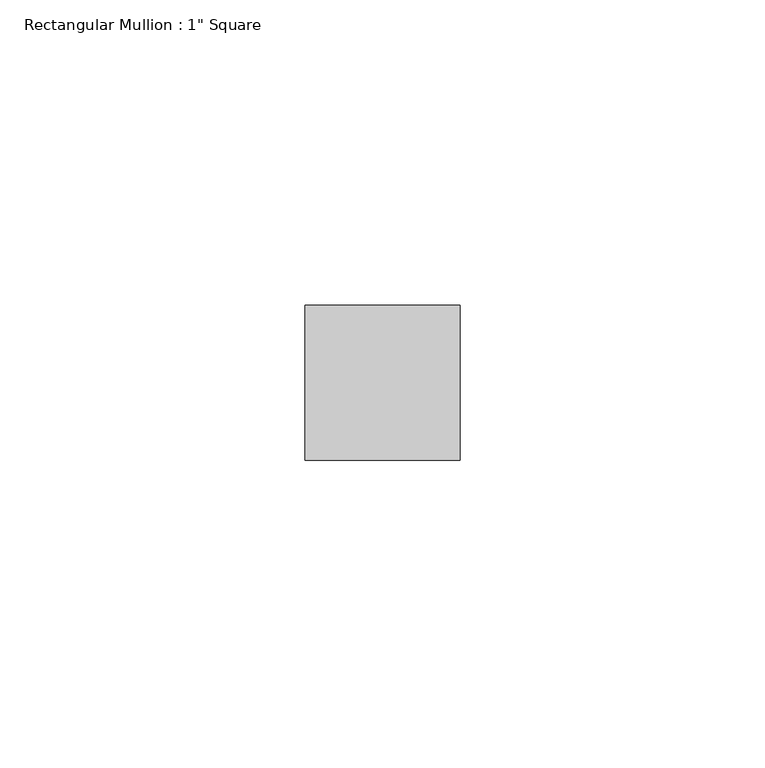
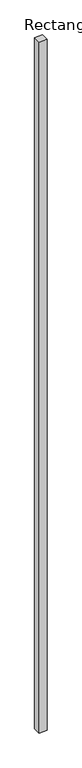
"""IFC4 building model written with IfcOpenShell, lengths in millimetres: member geometry."""

import ifcopenshell
import ifcopenshell.guid

model = None  # the IFC model being written
_history = None  # IfcOwnerHistory: only IFC2X3 demands one
_inside = {}  # id of a spatial element -> (the spatial element, [elements in it])
_under = {}  # id of a project, library or spatial element -> (it, [spatial elements below it])
_declared = {}  # id of a project -> (the project, [libraries it declares])
_typed = {}  # id of a type object -> (the type object, [elements of that type])
_made_of = {}  # id of a material, layer set ... -> (it, [elements and type objects made of it])


def new_model(schema):
    """Start an empty IFC model of exactly this schema.

    Asked for "IFC4X3", IfcOpenShell would pick the latest addendum, in which some entities
    have other attributes; the version numbers below select the first issue.
    IFC2X3 requires an IfcOwnerHistory on every rooted entity: one is made here for all.
    """
    global model, _history
    if schema == "IFC4X3":
        model = ifcopenshell.file(schema_version=(4, 3, 0, 0))
    else:
        model = ifcopenshell.file(schema=schema)
    _inside.clear()
    _under.clear()
    _declared.clear()
    _typed.clear()
    _made_of.clear()
    _history = None
    if model.schema == "IFC2X3":
        org = make("IfcOrganization", Name="unknown")
        user = make(
            "IfcPersonAndOrganization",
            ThePerson=make("IfcPerson", FamilyName="unknown"),
            TheOrganization=org,
        )
        app = make(
            "IfcApplication",
            ApplicationDeveloper=org,
            Version="unknown",
            ApplicationFullName="unknown",
            ApplicationIdentifier="unknown",
        )
        _history = make(
            "IfcOwnerHistory",
            OwningUser=user,
            OwningApplication=app,
            ChangeAction="ADDED",
            CreationDate=0,
        )
    return model


def make(cls, **values):
    """One entity of the class cls with the attributes given. An attribute that is None is left unset."""
    return model.create_entity(
        cls, **{name: value for name, value in values.items() if value is not None}
    )


def rooted(cls, **values):
    """An entity with a GlobalId (a new one), such as an element, a storey or a relation."""
    return make(cls, GlobalId=ifcopenshell.guid.new(), OwnerHistory=_history, **values)


def si_unit(unit_type, name, prefix=None):
    """IfcSIUnit, for example si_unit("LENGTHUNIT", "METRE", prefix="MILLI")."""
    return make("IfcSIUnit", UnitType=unit_type, Prefix=prefix, Name=name)


def assignment(units):
    """IfcUnitAssignment: the units of a project."""
    return None if units is None else make("IfcUnitAssignment", Units=units)


def point(xyz):
    """IfcCartesianPoint."""
    return None if xyz is None else make("IfcCartesianPoint", Coordinates=xyz)


def direction(xyz):
    """IfcDirection."""
    return None if xyz is None else make("IfcDirection", DirectionRatios=xyz)


def frame(location, z_axis=None, x_axis=None):
    """IfcAxis2Placement3D, a coordinate frame: its origin and axes. An axis left out is left unset."""
    return make(
        "IfcAxis2Placement3D",
        Location=point(location),
        Axis=direction(z_axis),
        RefDirection=direction(x_axis),
    )


def origin():
    """The frame at (0, 0, 0) with its axes left unset."""
    return frame((0.0, 0.0, 0.0))


def place(relative_to, where):
    """IfcLocalPlacement: puts the frame where relative to a parent placement (None: the world)."""
    return make(
        "IfcLocalPlacement", PlacementRelTo=relative_to, RelativePlacement=where
    )


def context(
    kind, dimensions, precision=None, world=None, true_north=None, identifier=None
):
    """IfcGeometricRepresentationContext, for example the 3D "Model" context."""
    return make(
        "IfcGeometricRepresentationContext",
        ContextIdentifier=identifier,
        ContextType=kind,
        CoordinateSpaceDimension=dimensions,
        Precision=precision,
        WorldCoordinateSystem=world,
        TrueNorth=true_north,
    )


def project(units=None, contexts=None):
    """IfcProject with its units and contexts."""
    return rooted(
        "IfcProject",
        Name="project",
        RepresentationContexts=contexts,
        UnitsInContext=assignment(units),
    )


def spatial(cls, under=None, at=None, **own):
    """A site, building, storey or space (cls), placed at a placement, below another one or the project."""
    s = rooted(cls, ObjectPlacement=at, **own)
    if under is not None:
        _under.setdefault(under.id(), (under, []))[1].append(s)
    return s


def polyline(points):
    """IfcPolyline through the points."""
    return make("IfcPolyline", Points=[point(p) for p in points])


def outline(outer, holes=None, kind="AREA"):
    """IfcArbitraryClosedProfileDef: a profile drawn as a closed curve; with holes, ...WithVoids."""
    if holes is None:
        return make("IfcArbitraryClosedProfileDef", ProfileType=kind, OuterCurve=outer)
    return make(
        "IfcArbitraryProfileDefWithVoids",
        ProfileType=kind,
        OuterCurve=outer,
        InnerCurves=holes,
    )


def extrude(swept, where, along, depth):
    """IfcExtrudedAreaSolid: the profile swept, set in the frame where, extruded along a direction by depth."""
    return make(
        "IfcExtrudedAreaSolid",
        SweptArea=swept,
        Position=where,
        ExtrudedDirection=direction(along),
        Depth=depth,
    )


def shape(context_of_items, identifier, shape_type, items):
    """IfcShapeRepresentation: the items that make up one representation, for example the "Body"."""
    return make(
        "IfcShapeRepresentation",
        ContextOfItems=context_of_items,
        RepresentationIdentifier=identifier,
        RepresentationType=shape_type,
        Items=items,
    )


def source(mapping_origin, context_of_items, identifier, shape_type, items):
    """IfcRepresentationMap: a shape defined once, which mapped items show again and again."""
    return make(
        "IfcRepresentationMap",
        MappingOrigin=mapping_origin,
        MappedRepresentation=shape(context_of_items, identifier, shape_type, items),
    )


def transform(
    local_origin,
    x_axis=None,
    y_axis=None,
    z_axis=None,
    scale=None,
    scale2=None,
    scale3=None,
    uniform=True,
):
    """IfcCartesianTransformationOperator3D, or its non-uniform kind. x_axis, y_axis, z_axis: its Axis1, 2, 3."""
    if uniform:
        return make(
            "IfcCartesianTransformationOperator3D",
            Axis1=direction(x_axis),
            Axis2=direction(y_axis),
            LocalOrigin=point(local_origin),
            Scale=scale,
            Axis3=direction(z_axis),
        )
    return make(
        "IfcCartesianTransformationOperator3DnonUniform",
        Axis1=direction(x_axis),
        Axis2=direction(y_axis),
        LocalOrigin=point(local_origin),
        Scale=scale,
        Axis3=direction(z_axis),
        Scale2=scale2,
        Scale3=scale3,
    )


def mapped(mapping_source, mapping_target):
    """IfcMappedItem: shows the shape of a source again, moved by a transform."""
    return make(
        "IfcMappedItem", MappingSource=mapping_source, MappingTarget=mapping_target
    )


def made_of(thing, what):
    """Note that an element or type object is made of a material, layer set ...; save() writes the relation."""
    if what is not None:
        _made_of.setdefault(what.id(), (what, []))[1].append(thing)
    return thing


def element(
    cls,
    number,
    at=None,
    inside=None,
    cuts=None,
    type_object=None,
    material=None,
    context=None,
    identifier="Body",
    shape_type=None,
    held_by="IfcProductDefinitionShape",
    body=None,
    shapes=None,
    **own,
):
    """One element of the class cls, such as IfcWall. Its Tag is "e" and its number.

    at: its placement. inside: the storey or other place that contains it. cuts: it is an
    opening in that element (IfcRelVoidsElement). A single representation is given by context,
    identifier, shape_type and body (its items); several are given by shapes. held_by: the class
    of the entity that holds the representations. save() writes the other relations.
    """
    e = rooted(cls, Tag="e%d" % number, ObjectPlacement=at, **own)
    if body is not None:
        shapes = [shape(context, identifier, shape_type, body)]
    if shapes is not None:
        e.Representation = make(held_by, Representations=shapes)
    if inside is not None:
        _inside.setdefault(inside.id(), (inside, []))[1].append(e)
    if cuts is not None:
        rooted(
            "IfcRelVoidsElement", RelatingBuildingElement=cuts, RelatedOpeningElement=e
        )
    if type_object is not None:
        _typed.setdefault(type_object.id(), (type_object, []))[1].append(e)
    return made_of(e, material)


def aggregate(whole, parts):
    """IfcRelAggregates: a whole, such as a stair, and the parts it consists of."""
    return rooted("IfcRelAggregates", RelatingObject=whole, RelatedObjects=parts)


def save(model, path):
    """Write the relations noted so far, then the file.

    IfcRelAggregates (storeys below a building ...), IfcRelContainedInSpatialStructure (elements
    in a storey), IfcRelDefinesByType, IfcRelAssociatesMaterial and IfcRelDeclares: one each for
    every whole, place, type object, material and project.
    """
    for whole, parts in _under.values():
        aggregate(whole, parts)
    for where, things in _inside.values():
        rooted(
            "IfcRelContainedInSpatialStructure",
            RelatedElements=things,
            RelatingStructure=where,
        )
    for kind, things in _typed.values():
        rooted("IfcRelDefinesByType", RelatedObjects=things, RelatingType=kind)
    for what, things in _made_of.values():
        rooted("IfcRelAssociatesMaterial", RelatedObjects=things, RelatingMaterial=what)
    for by, libraries in _declared.values():
        rooted("IfcRelDeclares", RelatingContext=by, RelatedDefinitions=libraries)
    model.write(path)


def member_36e36e3b(model_context):
    return source(origin(), model_context, "Body", "SweptSolid", [
        extrude(outline(polyline([(12.7, 12.7), (12.7, -12.7), (-12.7, -12.7), (-12.7, 12.7), (12.7, 12.7)])), frame((0.0, 0.0, -2347.8229586), z_axis=(0.0, 0.0, 1.0), x_axis=(1.0, 0.0, 0.0)), (0.0, 0.0, 1.0), 2347.8229586),
    ])


if __name__ == "__main__":
    model = new_model("IFC4")
    model_context = context("Model", 3, world=origin())
    ifc_project = project(units=[si_unit("LENGTHUNIT", "METRE", prefix="MILLI")], contexts=[model_context])
    site = spatial("IfcSite", under=ifc_project)
    building = spatial("IfcBuilding", under=site)
    placement = place(None, origin())
    member_shape = member_36e36e3b(model_context)
    element("IfcMember", 1, ObjectType="Rectangular Mullion : 1\" Square", at=placement, inside=building, context=model_context, shape_type="MappedRepresentation", body=[
        mapped(member_shape, transform((0.0, 0.0, 0.0), x_axis=(1.0, 0.0, 0.0), y_axis=(0.0, 1.0, 0.0), z_axis=(0.0, 0.0, 1.0))),
    ])
    save(model, "model.ifc")
